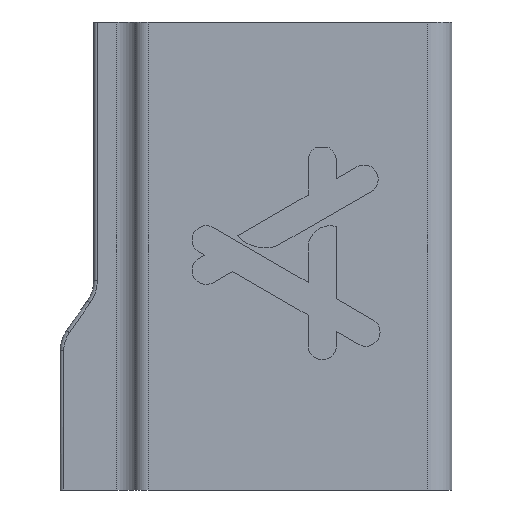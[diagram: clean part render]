
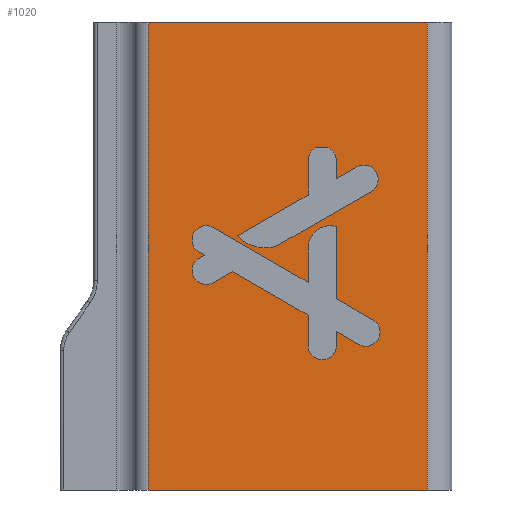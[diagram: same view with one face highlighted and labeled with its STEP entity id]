
A CAD part, front view. The second image highlights one B-rep face of the part: STEP entity #1020.
In plain terms, the highlighted planar face has unit normal (0, -1, 0).
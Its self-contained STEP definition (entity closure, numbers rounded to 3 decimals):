
#19=FACE_BOUND('',#179,.T.);
#20=FACE_BOUND('',#180,.T.);
#22=CIRCLE('',#1050,4.);
#24=CIRCLE('',#1055,10.96);
#26=CIRCLE('',#1059,4.);
#28=CIRCLE('',#1064,4.);
#30=CIRCLE('',#1068,6.284);
#32=CIRCLE('',#1073,4.);
#34=CIRCLE('',#1078,4.);
#36=CIRCLE('',#1084,4.);
#38=CIRCLE('',#1089,4.);
#123=FACE_OUTER_BOUND('',#178,.T.);
#178=EDGE_LOOP('',(#793,#794,#795,#796));
#179=EDGE_LOOP('',(#797,#798,#799,#800,#801,#802,#803,#804,#805,#806));
#180=EDGE_LOOP('',(#807,#808,#809,#810,#811,#812,#813,#814,#815,#816,#817,
#818,#819,#820,#821,#822));
#207=LINE('',#1466,#307);
#212=LINE('',#1480,#312);
#215=LINE('',#1486,#315);
#219=LINE('',#1498,#319);
#223=LINE('',#1510,#323);
#226=LINE('',#1516,#326);
#231=LINE('',#1535,#331);
#234=LINE('',#1541,#334);
#238=LINE('',#1553,#338);
#241=LINE('',#1559,#341);
#245=LINE('',#1571,#345);
#248=LINE('',#1577,#348);
#251=LINE('',#1583,#351);
#255=LINE('',#1595,#355);
#258=LINE('',#1601,#358);
#262=LINE('',#1613,#362);
#265=LINE('',#1618,#365);
#267=LINE('',#1626,#367);
#269=LINE('',#1632,#369);
#270=LINE('',#1634,#370);
#271=LINE('',#1635,#371);
#307=VECTOR('',#1156,10.);
#312=VECTOR('',#1169,10.);
#315=VECTOR('',#1174,10.);
#319=VECTOR('',#1186,10.);
#323=VECTOR('',#1198,10.);
#326=VECTOR('',#1203,10.);
#331=VECTOR('',#1224,10.);
#334=VECTOR('',#1229,10.);
#338=VECTOR('',#1241,10.);
#341=VECTOR('',#1246,10.);
#345=VECTOR('',#1258,10.);
#348=VECTOR('',#1263,10.);
#351=VECTOR('',#1268,10.);
#355=VECTOR('',#1280,10.);
#358=VECTOR('',#1285,10.);
#362=VECTOR('',#1297,10.);
#365=VECTOR('',#1302,10.);
#367=VECTOR('',#1310,10.);
#369=VECTOR('',#1316,10.);
#370=VECTOR('',#1317,10.);
#371=VECTOR('',#1318,10.);
#407=VERTEX_POINT('',#1464);
#408=VERTEX_POINT('',#1465);
#411=VERTEX_POINT('',#1473);
#413=VERTEX_POINT('',#1479);
#415=VERTEX_POINT('',#1485);
#417=VERTEX_POINT('',#1491);
#419=VERTEX_POINT('',#1497);
#421=VERTEX_POINT('',#1503);
#423=VERTEX_POINT('',#1509);
#425=VERTEX_POINT('',#1515);
#427=VERTEX_POINT('',#1525);
#428=VERTEX_POINT('',#1526);
#431=VERTEX_POINT('',#1534);
#433=VERTEX_POINT('',#1540);
#435=VERTEX_POINT('',#1546);
#437=VERTEX_POINT('',#1552);
#439=VERTEX_POINT('',#1558);
#441=VERTEX_POINT('',#1564);
#443=VERTEX_POINT('',#1570);
#445=VERTEX_POINT('',#1576);
#447=VERTEX_POINT('',#1582);
#449=VERTEX_POINT('',#1588);
#451=VERTEX_POINT('',#1594);
#453=VERTEX_POINT('',#1600);
#455=VERTEX_POINT('',#1606);
#457=VERTEX_POINT('',#1612);
#460=VERTEX_POINT('',#1623);
#461=VERTEX_POINT('',#1625);
#463=VERTEX_POINT('',#1631);
#464=VERTEX_POINT('',#1633);
#508=EDGE_CURVE('',#407,#408,#207,.T.);
#512=EDGE_CURVE('',#411,#407,#22,.T.);
#515=EDGE_CURVE('',#413,#411,#212,.T.);
#518=EDGE_CURVE('',#415,#413,#215,.T.);
#521=EDGE_CURVE('',#417,#415,#24,.T.);
#524=EDGE_CURVE('',#419,#417,#219,.T.);
#527=EDGE_CURVE('',#421,#419,#26,.T.);
#530=EDGE_CURVE('',#423,#421,#223,.T.);
#533=EDGE_CURVE('',#425,#423,#226,.T.);
#536=EDGE_CURVE('',#408,#425,#28,.T.);
#538=EDGE_CURVE('',#427,#428,#30,.T.);
#542=EDGE_CURVE('',#431,#427,#231,.T.);
#545=EDGE_CURVE('',#433,#431,#234,.T.);
#548=EDGE_CURVE('',#435,#433,#32,.T.);
#551=EDGE_CURVE('',#437,#435,#238,.T.);
#554=EDGE_CURVE('',#439,#437,#241,.T.);
#557=EDGE_CURVE('',#441,#439,#34,.T.);
#560=EDGE_CURVE('',#443,#441,#245,.T.);
#563=EDGE_CURVE('',#445,#443,#248,.T.);
#566=EDGE_CURVE('',#447,#445,#251,.T.);
#569=EDGE_CURVE('',#449,#447,#36,.T.);
#572=EDGE_CURVE('',#451,#449,#255,.T.);
#575=EDGE_CURVE('',#453,#451,#258,.T.);
#578=EDGE_CURVE('',#455,#453,#38,.T.);
#581=EDGE_CURVE('',#457,#455,#262,.T.);
#584=EDGE_CURVE('',#428,#457,#265,.T.);
#587=EDGE_CURVE('',#460,#461,#267,.T.);
#590=EDGE_CURVE('',#460,#463,#269,.T.);
#591=EDGE_CURVE('',#463,#464,#270,.T.);
#592=EDGE_CURVE('',#461,#464,#271,.T.);
#793=ORIENTED_EDGE('',*,*,#590,.T.);
#794=ORIENTED_EDGE('',*,*,#591,.T.);
#795=ORIENTED_EDGE('',*,*,#592,.F.);
#796=ORIENTED_EDGE('',*,*,#587,.F.);
#797=ORIENTED_EDGE('',*,*,#508,.T.);
#798=ORIENTED_EDGE('',*,*,#536,.T.);
#799=ORIENTED_EDGE('',*,*,#533,.T.);
#800=ORIENTED_EDGE('',*,*,#530,.T.);
#801=ORIENTED_EDGE('',*,*,#527,.T.);
#802=ORIENTED_EDGE('',*,*,#524,.T.);
#803=ORIENTED_EDGE('',*,*,#521,.T.);
#804=ORIENTED_EDGE('',*,*,#518,.T.);
#805=ORIENTED_EDGE('',*,*,#515,.T.);
#806=ORIENTED_EDGE('',*,*,#512,.T.);
#807=ORIENTED_EDGE('',*,*,#538,.T.);
#808=ORIENTED_EDGE('',*,*,#584,.T.);
#809=ORIENTED_EDGE('',*,*,#581,.T.);
#810=ORIENTED_EDGE('',*,*,#578,.T.);
#811=ORIENTED_EDGE('',*,*,#575,.T.);
#812=ORIENTED_EDGE('',*,*,#572,.T.);
#813=ORIENTED_EDGE('',*,*,#569,.T.);
#814=ORIENTED_EDGE('',*,*,#566,.T.);
#815=ORIENTED_EDGE('',*,*,#563,.T.);
#816=ORIENTED_EDGE('',*,*,#560,.T.);
#817=ORIENTED_EDGE('',*,*,#557,.T.);
#818=ORIENTED_EDGE('',*,*,#554,.T.);
#819=ORIENTED_EDGE('',*,*,#551,.T.);
#820=ORIENTED_EDGE('',*,*,#548,.T.);
#821=ORIENTED_EDGE('',*,*,#545,.T.);
#822=ORIENTED_EDGE('',*,*,#542,.T.);
#980=PLANE('',#1097);
#1020=ADVANCED_FACE('',(#123,#19,#20),#980,.T.);
#1050=AXIS2_PLACEMENT_3D('',#1474,#1162,#1163);
#1055=AXIS2_PLACEMENT_3D('',#1492,#1179,#1180);
#1059=AXIS2_PLACEMENT_3D('',#1504,#1191,#1192);
#1064=AXIS2_PLACEMENT_3D('',#1521,#1208,#1209);
#1068=AXIS2_PLACEMENT_3D('',#1527,#1216,#1217);
#1073=AXIS2_PLACEMENT_3D('',#1547,#1234,#1235);
#1078=AXIS2_PLACEMENT_3D('',#1565,#1251,#1252);
#1084=AXIS2_PLACEMENT_3D('',#1589,#1273,#1274);
#1089=AXIS2_PLACEMENT_3D('',#1607,#1290,#1291);
#1097=AXIS2_PLACEMENT_3D('',#1630,#1314,#1315);
#1156=DIRECTION('',(1.,0.,0.));
#1162=DIRECTION('center_axis',(0.,1.,0.));
#1163=DIRECTION('ref_axis',(1.,0.,0.));
#1169=DIRECTION('',(0.,0.,1.));
#1174=DIRECTION('',(0.866,0.,0.5));
#1179=DIRECTION('center_axis',(0.,1.,0.));
#1180=DIRECTION('ref_axis',(-0.721,0.,-0.693));
#1186=DIRECTION('',(-0.866,0.,-0.5));
#1191=DIRECTION('center_axis',(0.,1.,0.));
#1192=DIRECTION('ref_axis',(1.,0.,0.));
#1198=DIRECTION('',(0.866,0.,0.5));
#1203=DIRECTION('',(0.,0.,-1.));
#1208=DIRECTION('center_axis',(0.,1.,0.));
#1209=DIRECTION('ref_axis',(1.,0.,0.));
#1216=DIRECTION('center_axis',(0.,1.,0.));
#1217=DIRECTION('ref_axis',(0.273,0.,0.962));
#1224=DIRECTION('',(0.,0.,1.));
#1229=DIRECTION('',(0.866,0.,-0.5));
#1234=DIRECTION('center_axis',(0.,1.,0.));
#1235=DIRECTION('ref_axis',(1.,0.,0.));
#1241=DIRECTION('',(-0.866,0.,0.5));
#1246=DIRECTION('',(0.866,0.,0.5));
#1251=DIRECTION('center_axis',(0.,1.,0.));
#1252=DIRECTION('ref_axis',(1.,0.,0.));
#1258=DIRECTION('',(-0.866,0.,-0.5));
#1263=DIRECTION('',(-0.866,0.,0.5));
#1268=DIRECTION('',(0.,0.,1.));
#1273=DIRECTION('center_axis',(0.,1.,0.));
#1274=DIRECTION('ref_axis',(1.,0.,0.));
#1280=DIRECTION('',(0.,0.,-1.));
#1285=DIRECTION('',(-0.866,0.,0.5));
#1290=DIRECTION('center_axis',(0.,1.,0.));
#1291=DIRECTION('ref_axis',(1.,0.,0.));
#1297=DIRECTION('',(0.866,0.,-0.5));
#1302=DIRECTION('',(0.,0.,-1.));
#1310=DIRECTION('',(0.,0.,-1.));
#1314=DIRECTION('center_axis',(0.,-1.,0.));
#1315=DIRECTION('ref_axis',(1.,0.,0.));
#1316=DIRECTION('',(-1.,0.,0.));
#1317=DIRECTION('',(0.,0.,-1.));
#1318=DIRECTION('',(-1.,0.,0.));
#1464=CARTESIAN_POINT('',(47.008,-2.5,95.5));
#1465=CARTESIAN_POINT('',(50.848,-2.5,95.5));
#1466=CARTESIAN_POINT('',(23.404,-2.5,95.5));
#1473=CARTESIAN_POINT('',(44.928,-2.5,91.991));
#1474=CARTESIAN_POINT('Origin',(48.928,-2.5,91.991));
#1479=CARTESIAN_POINT('',(44.928,-2.5,82.164));
#1480=CARTESIAN_POINT('',(44.928,-2.5,41.082));
#1485=CARTESIAN_POINT('',(24.988,-2.5,70.651));
#1486=CARTESIAN_POINT('',(0.246,-2.5,56.366));
#1491=CARTESIAN_POINT('',(35.884,-2.5,67.704));
#1492=CARTESIAN_POINT('Origin',(32.889,-2.5,78.247));
#1497=CARTESIAN_POINT('',(62.718,-2.5,83.197));
#1498=CARTESIAN_POINT('',(21.111,-2.5,59.175));
#1503=CARTESIAN_POINT('',(58.718,-2.5,90.125));
#1504=CARTESIAN_POINT('Origin',(60.718,-2.5,86.661));
#1509=CARTESIAN_POINT('',(52.928,-2.5,86.782));
#1510=CARTESIAN_POINT('',(14.216,-2.5,64.432));
#1515=CARTESIAN_POINT('',(52.928,-2.5,91.991));
#1516=CARTESIAN_POINT('',(52.928,-2.5,45.995));
#1521=CARTESIAN_POINT('Origin',(48.928,-2.5,91.991));
#1525=CARTESIAN_POINT('',(44.928,-2.5,67.268));
#1526=CARTESIAN_POINT('',(52.928,-2.5,73.313));
#1527=CARTESIAN_POINT('Origin',(51.212,-2.5,67.268));
#1534=CARTESIAN_POINT('',(44.928,-2.5,57.577));
#1535=CARTESIAN_POINT('',(44.928,-2.5,28.789));
#1540=CARTESIAN_POINT('',(18.208,-2.5,73.004));
#1541=CARTESIAN_POINT('',(27.111,-2.5,67.864));
#1546=CARTESIAN_POINT('',(14.208,-2.5,66.076));
#1547=CARTESIAN_POINT('Origin',(16.208,-2.5,69.54));
#1552=CARTESIAN_POINT('',(15.636,-2.5,65.252));
#1553=CARTESIAN_POINT('',(23.825,-2.5,60.524));
#1558=CARTESIAN_POINT('',(14.209,-2.5,64.428));
#1559=CARTESIAN_POINT('',(-5.143,-2.5,53.255));
#1564=CARTESIAN_POINT('',(18.209,-2.5,57.5));
#1565=CARTESIAN_POINT('Origin',(16.209,-2.5,60.964));
#1570=CARTESIAN_POINT('',(23.636,-2.5,60.633));
#1571=CARTESIAN_POINT('',(1.57,-2.5,47.893));
#1576=CARTESIAN_POINT('',(44.928,-2.5,48.34));
#1577=CARTESIAN_POINT('',(38.471,-2.5,52.068));
#1582=CARTESIAN_POINT('',(44.928,-2.5,39.74));
#1583=CARTESIAN_POINT('',(44.928,-2.5,19.87));
#1588=CARTESIAN_POINT('',(52.928,-2.5,39.74));
#1589=CARTESIAN_POINT('Origin',(48.928,-2.5,39.74));
#1594=CARTESIAN_POINT('',(52.928,-2.5,43.721));
#1595=CARTESIAN_POINT('',(52.928,-2.5,21.86));
#1600=CARTESIAN_POINT('',(59.236,-2.5,40.079));
#1601=CARTESIAN_POINT('',(45.625,-2.5,47.937));
#1606=CARTESIAN_POINT('',(63.236,-2.5,47.007));
#1607=CARTESIAN_POINT('Origin',(61.236,-2.5,43.543));
#1612=CARTESIAN_POINT('',(52.928,-2.5,52.958));
#1613=CARTESIAN_POINT('',(44.471,-2.5,57.841));
#1618=CARTESIAN_POINT('',(52.928,-2.5,36.657));
#1623=CARTESIAN_POINT('',(78.5,-2.5,131.));
#1625=CARTESIAN_POINT('',(78.5,-2.5,-1.));
#1626=CARTESIAN_POINT('',(78.5,-2.5,0.));
#1630=CARTESIAN_POINT('Origin',(-0.2,-2.5,0.));
#1631=CARTESIAN_POINT('',(-0.2,-2.5,131.));
#1632=CARTESIAN_POINT('',(17.663,-2.5,131.));
#1633=CARTESIAN_POINT('',(-0.2,-2.5,-1.));
#1634=CARTESIAN_POINT('',(-0.2,-2.5,10.));
#1635=CARTESIAN_POINT('',(15.025,-2.5,-1.));
